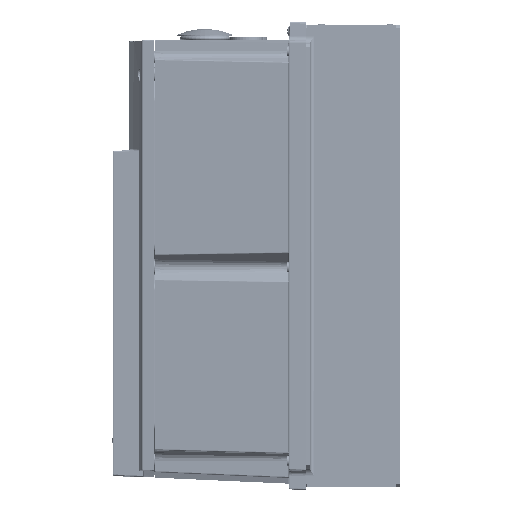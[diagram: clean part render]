
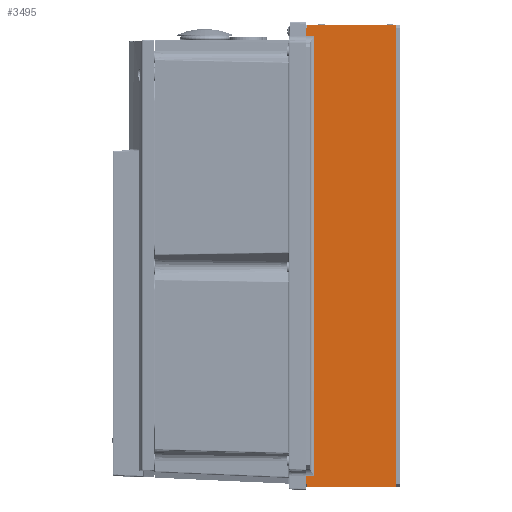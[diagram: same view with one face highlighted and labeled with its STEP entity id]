
A CAD part, left-side view. The second image highlights one B-rep face of the part: STEP entity #3495.
In plain terms, the highlighted planar face has unit normal (-1, 0, 0).
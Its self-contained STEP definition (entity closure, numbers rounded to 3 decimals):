
#3495=ADVANCED_FACE('',(#13803),#13804,.T.);
#13803=FACE_OUTER_BOUND('',#35100,.T.);
#13804=PLANE('',#35101);
#35100=EDGE_LOOP('',(#80224,#80225,#80226,#80227,#80228,#80229,#80230,#80231,#80232,#80233,#80234,#80235));
#35101=AXIS2_PLACEMENT_3D('',#80236,#80237,#80238);
#80224=ORIENTED_EDGE('',*,*,#120674,.T.);
#80225=ORIENTED_EDGE('',*,*,#119652,.F.);
#80226=ORIENTED_EDGE('',*,*,#120675,.T.);
#80227=ORIENTED_EDGE('',*,*,#120676,.F.);
#80228=ORIENTED_EDGE('',*,*,#120128,.T.);
#80229=ORIENTED_EDGE('',*,*,#120642,.F.);
#80230=ORIENTED_EDGE('',*,*,#120596,.F.);
#80231=ORIENTED_EDGE('',*,*,#120677,.F.);
#80232=ORIENTED_EDGE('',*,*,#120678,.F.);
#80233=ORIENTED_EDGE('',*,*,#119660,.F.);
#80234=ORIENTED_EDGE('',*,*,#120679,.T.);
#80235=ORIENTED_EDGE('',*,*,#120680,.T.);
#80236=CARTESIAN_POINT('',(-206.6,0.0,-19.0));
#80237=DIRECTION('',(-1.0,0.0,0.0));
#80238=DIRECTION('',(0.0,0.0,1.0));
#119652=EDGE_CURVE('',#142928,#142930,#142931,.T.);
#119660=EDGE_CURVE('',#142944,#142946,#142947,.T.);
#120128=EDGE_CURVE('',#143756,#143754,#143757,.T.);
#120596=EDGE_CURVE('',#144365,#144367,#144368,.T.);
#120642=EDGE_CURVE('',#144367,#143754,#144438,.T.);
#120674=EDGE_CURVE('',#144483,#142930,#144484,.T.);
#120675=EDGE_CURVE('',#142928,#144485,#144486,.T.);
#120676=EDGE_CURVE('',#143756,#144485,#144487,.T.);
#120677=EDGE_CURVE('',#144488,#144365,#144489,.T.);
#120678=EDGE_CURVE('',#142946,#144488,#144490,.T.);
#120679=EDGE_CURVE('',#142944,#144491,#144492,.T.);
#120680=EDGE_CURVE('',#144491,#144483,#144493,.T.);
#142928=VERTEX_POINT('',#183542);
#142930=VERTEX_POINT('',#183545);
#142931=LINE('',#183546,#183547);
#142944=VERTEX_POINT('',#183565);
#142946=VERTEX_POINT('',#183567);
#142947=LINE('',#183568,#183569);
#143754=VERTEX_POINT('',#184634);
#143756=VERTEX_POINT('',#184637);
#143757=LINE('',#184638,#184639);
#144365=VERTEX_POINT('',#185389);
#144367=VERTEX_POINT('',#185392);
#144368=LINE('',#185393,#185394);
#144438=LINE('',#185501,#185502);
#144483=VERTEX_POINT('',#185572);
#144484=LINE('',#185573,#185574);
#144485=VERTEX_POINT('',#185575);
#144486=LINE('',#185576,#185577);
#144487=LINE('',#185578,#185579);
#144488=VERTEX_POINT('',#185580);
#144489=LINE('',#185581,#185582);
#144490=LINE('',#185583,#185584);
#144491=VERTEX_POINT('',#185585);
#144492=LINE('',#185586,#185587);
#144493=LINE('',#185588,#185589);
#183542=CARTESIAN_POINT('',(-206.6,0.0,-17.0));
#183545=CARTESIAN_POINT('',(-206.6,0.0,-11.0));
#183546=CARTESIAN_POINT('',(-206.6,0.0,-17.0));
#183547=VECTOR('',#224555,6.0);
#183565=CARTESIAN_POINT('',(-206.6,0.0,308.6));
#183567=CARTESIAN_POINT('',(-206.6,0.0,314.6));
#183568=CARTESIAN_POINT('',(-206.6,0.0,308.6));
#183569=VECTOR('',#224567,6.0);
#184634=CARTESIAN_POINT('',(-206.6,-72.0,-19.0));
#184637=CARTESIAN_POINT('',(-206.6,-8.0,-19.0));
#184638=CARTESIAN_POINT('',(-206.6,-8.0,-19.0));
#184639=VECTOR('',#225473,64.0);
#185389=CARTESIAN_POINT('',(-206.6,-8.0,316.6));
#185392=CARTESIAN_POINT('',(-206.6,-72.0,316.6));
#185393=CARTESIAN_POINT('',(-206.6,-8.0,316.6));
#185394=VECTOR('',#226589,64.0);
#185501=CARTESIAN_POINT('',(-206.6,-72.0,316.6));
#185502=VECTOR('',#226651,335.6);
#185572=CARTESIAN_POINT('',(-206.6,-13.0,-11.0));
#185573=CARTESIAN_POINT('',(-206.6,-13.0,-11.0));
#185574=VECTOR('',#226695,13.0);
#185575=CARTESIAN_POINT('',(-206.6,-8.0,-17.0));
#185576=CARTESIAN_POINT('',(-206.6,0.0,-17.0));
#185577=VECTOR('',#226696,8.0);
#185578=CARTESIAN_POINT('',(-206.6,-8.0,-19.0));
#185579=VECTOR('',#226697,2.0);
#185580=CARTESIAN_POINT('',(-206.6,-8.0,314.6));
#185581=CARTESIAN_POINT('',(-206.6,-8.0,314.6));
#185582=VECTOR('',#226698,2.0);
#185583=CARTESIAN_POINT('',(-206.6,0.0,314.6));
#185584=VECTOR('',#226699,8.0);
#185585=CARTESIAN_POINT('',(-206.6,-13.0,308.6));
#185586=CARTESIAN_POINT('',(-206.6,0.0,308.6));
#185587=VECTOR('',#226700,13.0);
#185588=CARTESIAN_POINT('',(-206.6,-13.0,308.6));
#185589=VECTOR('',#226701,319.6);
#224555=DIRECTION('',(0.0,0.0,1.0));
#224567=DIRECTION('',(0.0,0.0,1.0));
#225473=DIRECTION('',(0.0,-1.0,0.0));
#226589=DIRECTION('',(0.0,-1.0,0.0));
#226651=DIRECTION('',(0.0,0.0,-1.0));
#226695=DIRECTION('',(0.0,1.0,0.0));
#226696=DIRECTION('',(0.0,-1.0,0.0));
#226697=DIRECTION('',(0.0,0.0,1.0));
#226698=DIRECTION('',(0.0,0.0,1.0));
#226699=DIRECTION('',(0.0,-1.0,0.0));
#226700=DIRECTION('',(0.0,-1.0,0.0));
#226701=DIRECTION('',(0.0,0.0,-1.0));
